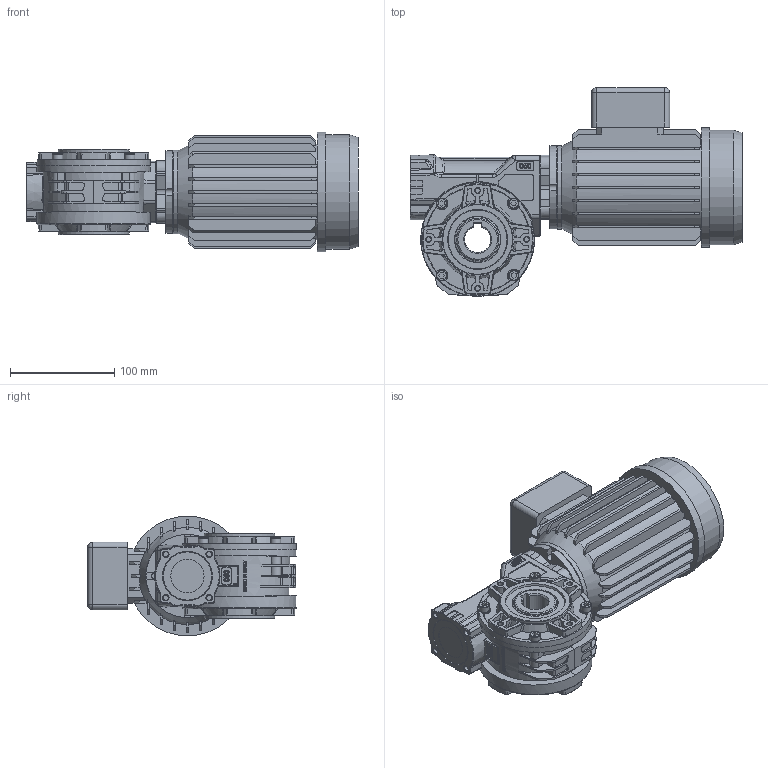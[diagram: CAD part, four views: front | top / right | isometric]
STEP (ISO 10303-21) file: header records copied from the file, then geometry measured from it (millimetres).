
FILE_DESCRIPTION( ( 'Unknown' ), '1' );
FILE_NAME( 'E:/services/configuratordownloads/customers/HYDROMEC/VSF/download/518B7F086A456F77A57E784EB36792/STEP/518B7F086A456F77A57E784EB36792.3d.stp', 'Unknown', ( 'Unknown' ), ( 'Unknown' ), 'PSStep 10.1', 'Unknown', ' ' );
FILE_SCHEMA( ( 'AUTOMOTIVE_DESIGN { 1 0 10303 214 1 1 1 1 }' ) );
Length unit declared in the file: millimetre
Products named in the file (1): 0508800
Bounding box: 319 x 200.73 x 115 mm (x, y, z)
Volume: 2463002.1 mm3; surface area: 237132.4 mm2
Topology: 1 solids, 12 shells, 1433 faces, 3640 edges, 2346 vertices
Faces by surface type: plane 769, cylinder 256, cone 178, bspline 173, torus 29, sphere 14, extrusion 13, revolution 1
Full cylindrical faces by diameter (mm): 4.2 x8, 4.917 x20, 6 x4, 7 x4, 9.9 x4, 10 x4, 12.5 x4, 25 x1, 30 x1, 32 x1, 40 x4, 41 x2, 46.3 x1, 68 x2, 80 x1, 93.146 x1, 110 x1, 115 x1
Entity records: 67146 total; most frequent: CARTESIAN_POINT 23559, ORIENTED_EDGE 6816, DIRECTION 6128, EDGE_CURVE 3408, AXIS2_PLACEMENT_3D 2283, VERTEX_POINT 2280, EDGE_LOOP 1724, VECTOR 1561
